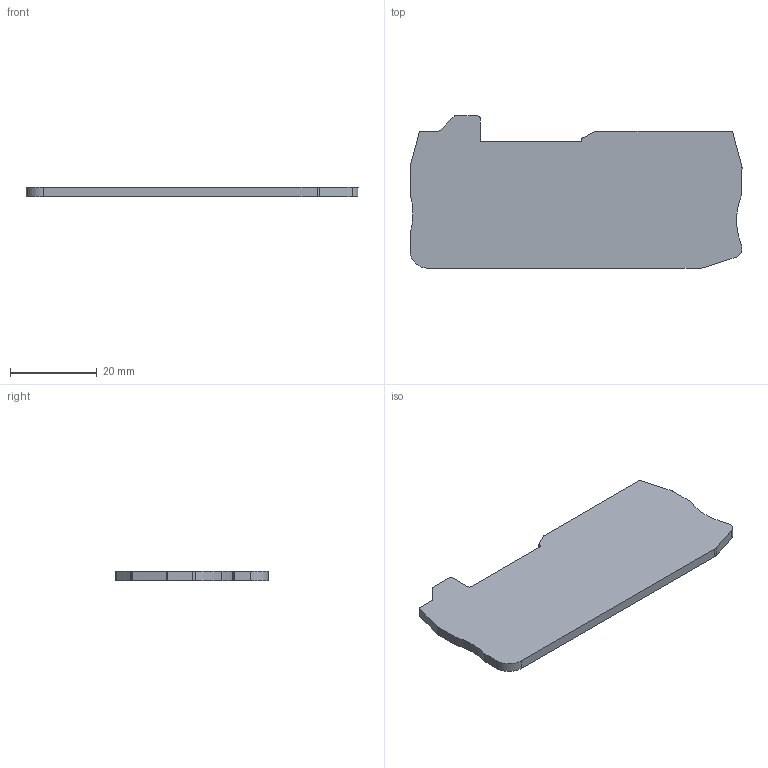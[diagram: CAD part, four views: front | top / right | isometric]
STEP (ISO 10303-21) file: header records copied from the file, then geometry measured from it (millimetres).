
FILE_DESCRIPTION(('OneSpaceDesigner STEP Export'),'2;1');
FILE_NAME('3206296_d-qtcu_15-twin_select.stp','2004-10-18T 7:03:52',(''),(''),'OneSpace Designer STEP processor (Jan. 2003) for AP203(Solid Model)','OneSpace Designer 12.01C 26-Mar-2004 (C) CoCreate Software GmbH','');
FILE_SCHEMA(('CONFIG_CONTROL_DESIGN'));
Length unit declared in the file: millimetre
Products named in the file (2): 3206296_d-qtcu_15-twin_select
Assembly tree (1 placements, depth 2):
  3206296_d-qtcu_15-twin_select
    3206296_d-qtcu_15-twin_select
Bounding box: 76.4 x 35.05 x 2.2 mm (x, y, z)
Volume: 5116.7 mm3; surface area: 5125.6 mm2
Topology: 1 solids, 1 shells, 41 faces, 117 edges, 78 vertices
Faces by surface type: cylinder 23, plane 18
Entity records: 1534 total; most frequent: ORIENTED_EDGE 234, DIRECTION 231, CARTESIAN_POINT 229, EDGE_CURVE 117, AXIS2_PLACEMENT_3D 80, VERTEX_POINT 78, VECTOR 71, LINE 71
